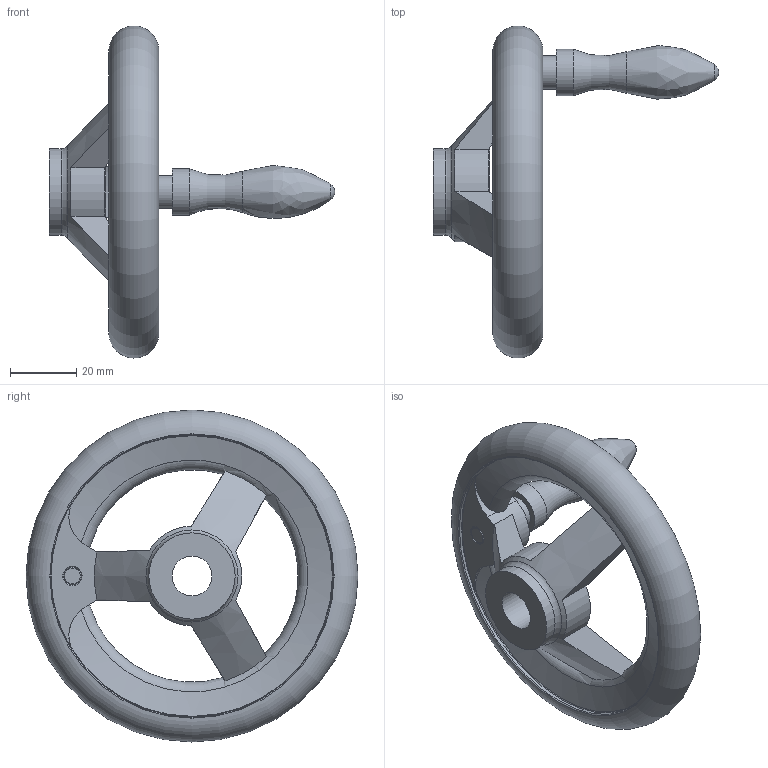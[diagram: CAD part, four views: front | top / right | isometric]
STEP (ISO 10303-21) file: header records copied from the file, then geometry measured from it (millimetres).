
FILE_DESCRIPTION( ( 'STEP AP203' ), '1' );
FILE_NAME( 'C:/Temp/Ganter_Step_05_03_2020/data/1_3/din_950/din_950_b/din_950_b_d/Handwheel DIN 950-AL-100-B12-D.stp', '2020-03-05T10:29:36', ( 'License CC BY-ND 4.0' ), ( 'CADENAS' ), ' ', 'PARTsolutions', ' ' );
FILE_SCHEMA( ( 'CONFIG_CONTROL_DESIGN' ) );
Length unit declared in the file: millimetre
Products named in the file (1): _Handwheel DIN 950-AL-100-B12-D
Bounding box: 86 x 100 x 100 mm (x, y, z)
Volume: 70808.7 mm3; surface area: 21619.4 mm2
Topology: 1 solids, 1 shells, 46 faces, 125 edges, 79 vertices
Faces by surface type: cylinder 15, plane 12, torus 11, cone 6, bspline 1, sphere 1
Full cylindrical faces by diameter (mm): 10 x1, 12 x1, 14 x1, 26 x2, 85 x2
Entity records: 1665 total; most frequent: CARTESIAN_POINT 600, DIRECTION 202, ORIENTED_EDGE 196, EDGE_CURVE 98, AXIS2_PLACEMENT_3D 95, VERTEX_POINT 75, EDGE_LOOP 73, FACE_OUTER_BOUND 62
